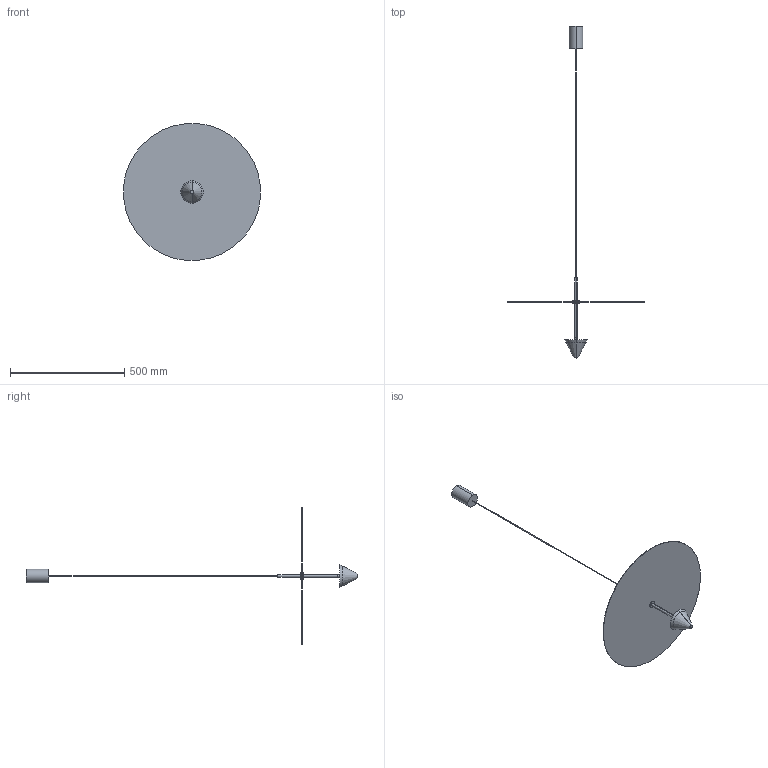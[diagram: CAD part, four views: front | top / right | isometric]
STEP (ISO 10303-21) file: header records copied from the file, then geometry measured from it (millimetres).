
FILE_DESCRIPTION (( 'STEP AP214' ), '1' );
FILE_NAME('CAL010883','',(''),(''),'','','');
FILE_SCHEMA (( 'AUTOMOTIVE_DESIGN' ));
Length unit declared in the file: millimetre
Products named in the file (1): CAL010883_CAL010883_3
Bounding box: 598.11 x 1450.03 x 598.11 mm (x, y, z)
Volume: 924466.7 mm3; surface area: 662037.2 mm2
Topology: 11 solids, 11 shells, 72 faces, 138 edges, 90 vertices
Faces by surface type: cylinder 33, plane 26, cone 6, torus 4, bspline 3
Entity records: 3246 total; most frequent: CARTESIAN_POINT 855, DIRECTION 326, ORIENTED_EDGE 276, AXIS2_PLACEMENT_3D 143, EDGE_CURVE 138, VERTEX_POINT 90, UNCERTAINTY_MEASURE_WITH_UNIT 85, PRESENTATION_LAYER_ASSIGNMENT 84
